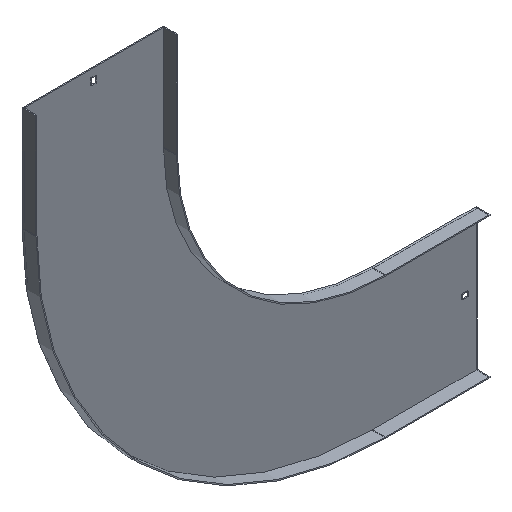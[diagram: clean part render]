
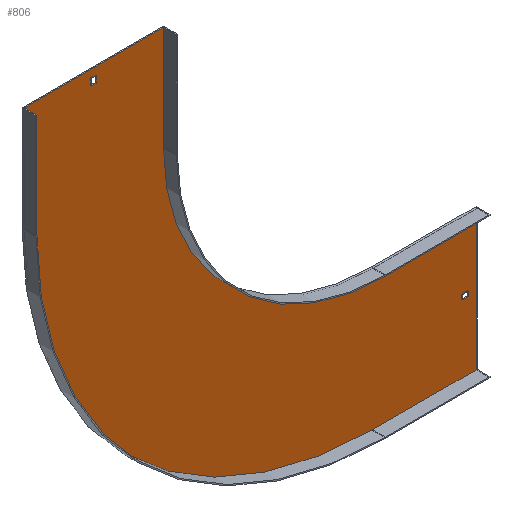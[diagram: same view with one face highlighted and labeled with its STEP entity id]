
A CAD part, isometric view. The second image highlights one B-rep face of the part: STEP entity #806.
In plain terms, the highlighted planar face has unit normal (0, -1, 0).
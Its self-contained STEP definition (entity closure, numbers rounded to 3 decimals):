
#5 = ORIENTED_EDGE ( 'NONE', *, *, #148, .F. ) ;
#10 = ORIENTED_EDGE ( 'NONE', *, *, #645, .F. ) ;
#20 = LINE ( 'NONE', #24, #615 ) ;
#24 = CARTESIAN_POINT ( 'NONE',  ( 150., -1.5, -298.5 ) ) ;
#25 = CARTESIAN_POINT ( 'NONE',  ( 138., -1.5, -396.75 ) ) ;
#36 = AXIS2_PLACEMENT_3D ( 'NONE', #802, #218, #769 ) ;
#37 = ORIENTED_EDGE ( 'NONE', *, *, #174, .F. ) ;
#44 = PLANE ( 'NONE',  #265 ) ;
#45 = CARTESIAN_POINT ( 'NONE',  ( 129., -1.5, -396.75 ) ) ;
#46 = VERTEX_POINT ( 'NONE', #692 ) ;
#66 = VECTOR ( 'NONE', #609, 1000. ) ;
#70 = ORIENTED_EDGE ( 'NONE', *, *, #778, .T. ) ;
#78 = VECTOR ( 'NONE', #203, 1000. ) ;
#89 = VERTEX_POINT ( 'NONE', #500 ) ;
#102 = LINE ( 'NONE', #369, #548 ) ;
#119 = CARTESIAN_POINT ( 'NONE',  ( 0., -1.5, -300. ) ) ;
#124 = CARTESIAN_POINT ( 'NONE',  ( -300., -1.5, 150. ) ) ;
#130 = CARTESIAN_POINT ( 'NONE',  ( 0., -1.5, 0. ) ) ;
#144 = DIRECTION ( 'NONE',  ( 0., 0., -1. ) ) ;
#148 = EDGE_CURVE ( 'NONE', #543, #776, #191, .T. ) ;
#151 = DIRECTION ( 'NONE',  ( 0., 0., -1. ) ) ;
#164 = CARTESIAN_POINT ( 'NONE',  ( -500., -1.5, 150. ) ) ;
#173 = EDGE_CURVE ( 'NONE', #560, #467, #225, .T. ) ;
#174 = EDGE_CURVE ( 'NONE', #619, #651, #310, .T. ) ;
#178 = CARTESIAN_POINT ( 'NONE',  ( -500., -1.5, 0. ) ) ;
#187 = VECTOR ( 'NONE', #452, 1000. ) ;
#191 = LINE ( 'NONE', #736, #78 ) ;
#203 = DIRECTION ( 'NONE',  ( 0., 0., 1. ) ) ;
#209 = CARTESIAN_POINT ( 'NONE',  ( 0., -1.5, -403.25 ) ) ;
#210 = EDGE_CURVE ( 'NONE', #467, #756, #432, .T. ) ;
#214 = LINE ( 'NONE', #333, #721 ) ;
#218 = DIRECTION ( 'NONE',  ( 0., -1., 0. ) ) ;
#220 = VERTEX_POINT ( 'NONE', #380 ) ;
#221 = ORIENTED_EDGE ( 'NONE', *, *, #173, .F. ) ;
#225 = CIRCLE ( 'NONE', #671, 500. ) ;
#226 = VECTOR ( 'NONE', #775, 1000. ) ;
#236 = CARTESIAN_POINT ( 'NONE',  ( 0., -1.5, -396.75 ) ) ;
#250 = DIRECTION ( 'NONE',  ( 0., -1., 0. ) ) ;
#251 = ORIENTED_EDGE ( 'NONE', *, *, #259, .F. ) ;
#253 = VECTOR ( 'NONE', #307, 1000. ) ;
#256 = DIRECTION ( 'NONE',  ( 0., 0., -1. ) ) ;
#259 = EDGE_CURVE ( 'NONE', #591, #619, #385, .T. ) ;
#265 = AXIS2_PLACEMENT_3D ( 'NONE', #855, #250, #256 ) ;
#276 = EDGE_CURVE ( 'NONE', #89, #543, #285, .T. ) ;
#285 = LINE ( 'NONE', #209, #441 ) ;
#286 = VERTEX_POINT ( 'NONE', #750 ) ;
#295 = VECTOR ( 'NONE', #843, 1000. ) ;
#298 = LINE ( 'NONE', #549, #602 ) ;
#307 = DIRECTION ( 'NONE',  ( -1., 0., 0. ) ) ;
#310 = CIRCLE ( 'NONE', #36, 300. ) ;
#320 = CARTESIAN_POINT ( 'NONE',  ( -501.5, -1.5, 150. ) ) ;
#321 = CARTESIAN_POINT ( 'NONE',  ( 0., -1.5, -500. ) ) ;
#325 = CARTESIAN_POINT ( 'NONE',  ( -300., -1.5, 150. ) ) ;
#333 = CARTESIAN_POINT ( 'NONE',  ( 0., -1.5, -300. ) ) ;
#334 = CARTESIAN_POINT ( 'NONE',  ( 129., -1.5, 0. ) ) ;
#342 = VERTEX_POINT ( 'NONE', #767 ) ;
#343 = ORIENTED_EDGE ( 'NONE', *, *, #814, .F. ) ;
#356 = VERTEX_POINT ( 'NONE', #678 ) ;
#369 = CARTESIAN_POINT ( 'NONE',  ( 0., -1.5, 138. ) ) ;
#375 = CARTESIAN_POINT ( 'NONE',  ( 150., -1.5, -500. ) ) ;
#380 = CARTESIAN_POINT ( 'NONE',  ( -396.75, -1.5, 138. ) ) ;
#385 = LINE ( 'NONE', #124, #295 ) ;
#389 = LINE ( 'NONE', #334, #792 ) ;
#400 = DIRECTION ( 'NONE',  ( 0., 1., 0. ) ) ;
#414 = CARTESIAN_POINT ( 'NONE',  ( -500., -1.5, 0. ) ) ;
#421 = ORIENTED_EDGE ( 'NONE', *, *, #210, .F. ) ;
#426 = EDGE_CURVE ( 'NONE', #220, #539, #654, .T. ) ;
#432 = LINE ( 'NONE', #178, #704 ) ;
#441 = VECTOR ( 'NONE', #816, 1000. ) ;
#443 = ORIENTED_EDGE ( 'NONE', *, *, #446, .F. ) ;
#446 = EDGE_CURVE ( 'NONE', #342, #286, #20, .T. ) ;
#447 = CARTESIAN_POINT ( 'NONE',  ( -300., -1.5, 0. ) ) ;
#452 = DIRECTION ( 'NONE',  ( -1., 0., 0. ) ) ;
#456 = DIRECTION ( 'NONE',  ( 0., 0., -1. ) ) ;
#458 = ORIENTED_EDGE ( 'NONE', *, *, #762, .F. ) ;
#467 = VERTEX_POINT ( 'NONE', #414 ) ;
#476 = EDGE_CURVE ( 'NONE', #539, #46, #694, .T. ) ;
#477 = EDGE_CURVE ( 'NONE', #776, #585, #835, .T. ) ;
#478 = ORIENTED_EDGE ( 'NONE', *, *, #276, .F. ) ;
#493 = FACE_BOUND ( 'NONE', #725, .T. ) ;
#500 = CARTESIAN_POINT ( 'NONE',  ( 129., -1.5, -403.25 ) ) ;
#507 = FACE_BOUND ( 'NONE', #824, .T. ) ;
#515 = EDGE_CURVE ( 'NONE', #356, #220, #102, .T. ) ;
#532 = ORIENTED_EDGE ( 'NONE', *, *, #844, .F. ) ;
#539 = VERTEX_POINT ( 'NONE', #564 ) ;
#543 = VERTEX_POINT ( 'NONE', #773 ) ;
#548 = VECTOR ( 'NONE', #562, 1000. ) ;
#549 = CARTESIAN_POINT ( 'NONE',  ( -403.25, -1.5, 0. ) ) ;
#555 = ORIENTED_EDGE ( 'NONE', *, *, #476, .T. ) ;
#560 = VERTEX_POINT ( 'NONE', #321 ) ;
#562 = DIRECTION ( 'NONE',  ( 1., 0., 0. ) ) ;
#563 = LINE ( 'NONE', #320, #66 ) ;
#564 = CARTESIAN_POINT ( 'NONE',  ( -396.75, -1.5, 129. ) ) ;
#565 = FACE_OUTER_BOUND ( 'NONE', #605, .T. ) ;
#585 = VERTEX_POINT ( 'NONE', #45 ) ;
#589 = DIRECTION ( 'NONE',  ( 0., 0., -1. ) ) ;
#591 = VERTEX_POINT ( 'NONE', #325 ) ;
#593 = CARTESIAN_POINT ( 'NONE',  ( -396.75, -1.5, 0. ) ) ;
#602 = VECTOR ( 'NONE', #827, 1000. ) ;
#605 = EDGE_LOOP ( 'NONE', ( #458, #421, #221, #532, #443, #10, #37, #251 ) ) ;
#609 = DIRECTION ( 'NONE',  ( 1., 0., 0. ) ) ;
#615 = VECTOR ( 'NONE', #151, 1000. ) ;
#619 = VERTEX_POINT ( 'NONE', #447 ) ;
#621 = CARTESIAN_POINT ( 'NONE',  ( 0., -1.5, 129. ) ) ;
#645 = EDGE_CURVE ( 'NONE', #651, #342, #214, .T. ) ;
#651 = VERTEX_POINT ( 'NONE', #119 ) ;
#654 = LINE ( 'NONE', #593, #790 ) ;
#671 = AXIS2_PLACEMENT_3D ( 'NONE', #130, #400, #589 ) ;
#678 = CARTESIAN_POINT ( 'NONE',  ( -403.25, -1.5, 138. ) ) ;
#689 = ORIENTED_EDGE ( 'NONE', *, *, #477, .F. ) ;
#691 = DIRECTION ( 'NONE',  ( 0., 0., 1. ) ) ;
#692 = CARTESIAN_POINT ( 'NONE',  ( -403.25, -1.5, 129. ) ) ;
#694 = LINE ( 'NONE', #621, #253 ) ;
#704 = VECTOR ( 'NONE', #691, 1000. ) ;
#707 = ORIENTED_EDGE ( 'NONE', *, *, #515, .T. ) ;
#709 = LINE ( 'NONE', #375, #187 ) ;
#721 = VECTOR ( 'NONE', #730, 1000. ) ;
#725 = EDGE_LOOP ( 'NONE', ( #689, #5, #478, #343 ) ) ;
#730 = DIRECTION ( 'NONE',  ( 1., 0., 0. ) ) ;
#736 = CARTESIAN_POINT ( 'NONE',  ( 138., -1.5, 0. ) ) ;
#750 = CARTESIAN_POINT ( 'NONE',  ( 150., -1.5, -500. ) ) ;
#756 = VERTEX_POINT ( 'NONE', #164 ) ;
#762 = EDGE_CURVE ( 'NONE', #756, #591, #563, .T. ) ;
#767 = CARTESIAN_POINT ( 'NONE',  ( 150., -1.5, -300. ) ) ;
#769 = DIRECTION ( 'NONE',  ( 0., 0., -1. ) ) ;
#773 = CARTESIAN_POINT ( 'NONE',  ( 138., -1.5, -403.25 ) ) ;
#775 = DIRECTION ( 'NONE',  ( -1., 0., 0. ) ) ;
#776 = VERTEX_POINT ( 'NONE', #25 ) ;
#778 = EDGE_CURVE ( 'NONE', #46, #356, #298, .T. ) ;
#790 = VECTOR ( 'NONE', #144, 1000. ) ;
#792 = VECTOR ( 'NONE', #456, 1000. ) ;
#798 = ORIENTED_EDGE ( 'NONE', *, *, #426, .T. ) ;
#802 = CARTESIAN_POINT ( 'NONE',  ( 0., -1.5, 0. ) ) ;
#806 = ADVANCED_FACE ( 'NONE', ( #493, #565, #507 ), #44, .T. ) ;
#814 = EDGE_CURVE ( 'NONE', #585, #89, #389, .T. ) ;
#816 = DIRECTION ( 'NONE',  ( 1., 0., 0. ) ) ;
#824 = EDGE_LOOP ( 'NONE', ( #707, #798, #555, #70 ) ) ;
#827 = DIRECTION ( 'NONE',  ( 0., 0., 1. ) ) ;
#835 = LINE ( 'NONE', #236, #226 ) ;
#843 = DIRECTION ( 'NONE',  ( 0., 0., -1. ) ) ;
#844 = EDGE_CURVE ( 'NONE', #286, #560, #709, .T. ) ;
#855 = CARTESIAN_POINT ( 'NONE',  ( 0., -1.5, 0. ) ) ;
